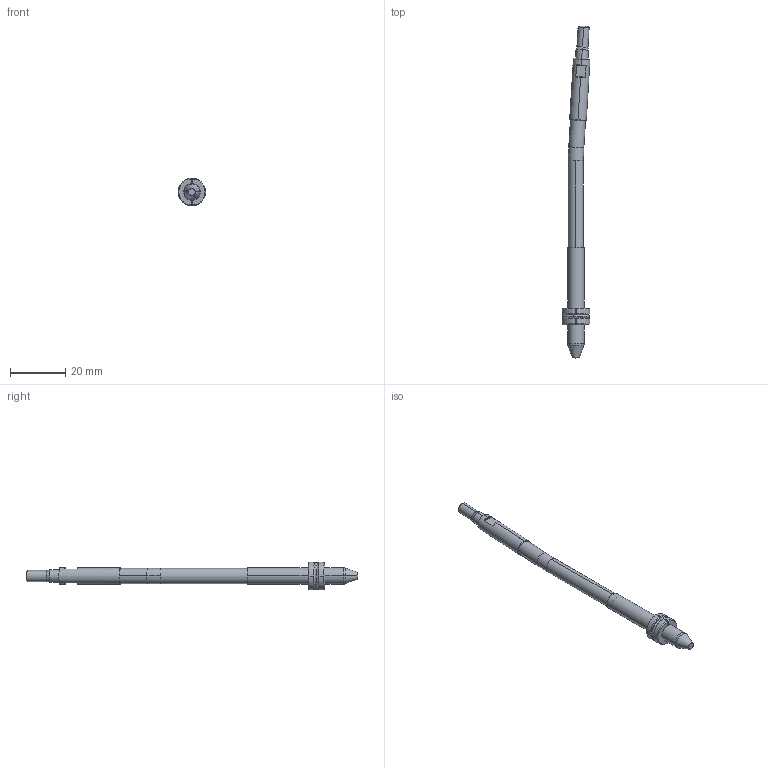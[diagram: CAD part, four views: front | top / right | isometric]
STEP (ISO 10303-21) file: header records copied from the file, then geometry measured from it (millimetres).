
FILE_DESCRIPTION (( 'STEP AP214' ), '1' );
FILE_NAME ('WP060030-INJ 3,5°.STEP', '2021-03-19T15:11:19', ( '' ), ( '' ), 'SwSTEP 2.0', 'SolidWorks 2019', '' );
FILE_SCHEMA (( 'AUTOMOTIVE_DESIGN' ));
Length unit declared in the file: millimetre
Products named in the file (6): WP060030-INJ 3,5°; WEB-001-9WP060030-1; WEB-007-9WP060030-F_WP060030-F-OFF 3,5ø; WEB-008-JUNTA-JT7X1X9; WEB-006-9WP060030-6; WEB-002-9WP060030-2
Assembly tree (5 placements, depth 2):
  WP060030-INJ 3,5°
    WEB-001-9WP060030-1
    WEB-007-9WP060030-F_WP060030-F-OFF 3,5ø
    WEB-002-9WP060030-2
    WEB-006-9WP060030-6
    WEB-008-JUNTA-JT7X1X9
Bounding box: 10.08 x 119.82 x 9.99 mm (x, y, z)
Volume: 3174 mm3; surface area: 2920.6 mm2
Topology: 6 solids, 6 shells, 112 faces, 262 edges, 164 vertices
Faces by surface type: cylinder 36, cone 28, plane 28, torus 20
Entity records: 3723 total; most frequent: CARTESIAN_POINT 714, DIRECTION 598, ORIENTED_EDGE 524, EDGE_CURVE 262, AXIS2_PLACEMENT_3D 256, VERTEX_POINT 164, CIRCLE 136, EDGE_LOOP 116
